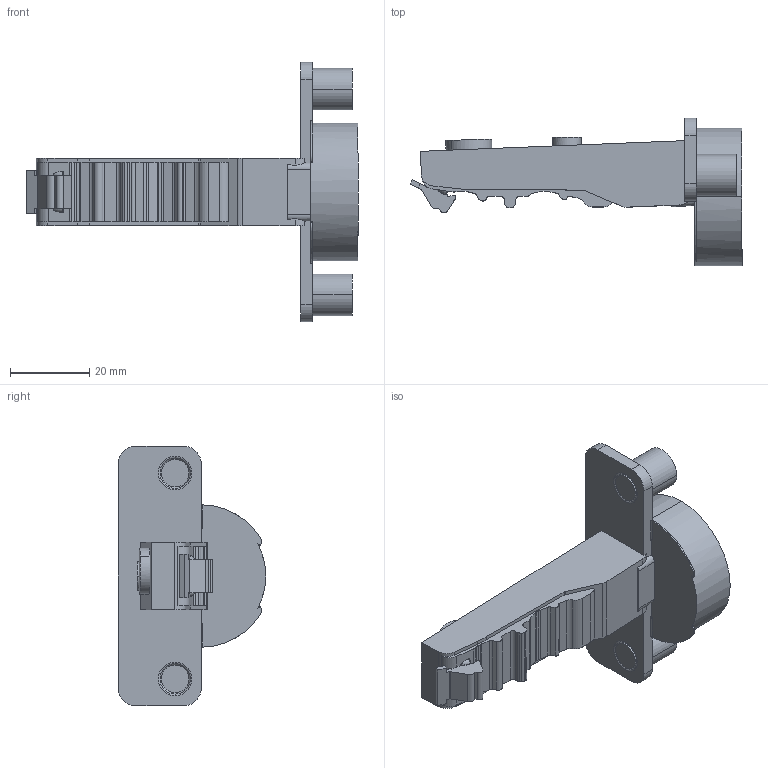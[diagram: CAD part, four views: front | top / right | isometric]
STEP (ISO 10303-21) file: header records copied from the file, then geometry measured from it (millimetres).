
FILE_DESCRIPTION (( 'STEP AP203' ), '1' );
FILE_NAME ('C82A677MFA-DTC 3D close.STEP', '2024-07-10T09:06:32', ( '微软用户' ), ( '微软中国' ), 'SwSTEP 2.0', 'SolidWorks 2021', '' );
FILE_SCHEMA (( 'CONFIG_CONTROL_DESIGN' ));
Length unit declared in the file: millimetre
Products named in the file (1): C82A677MFA-DTC 3D close
Bounding box: 83.89 x 37.28 x 65.56 mm (x, y, z)
Volume: 32668.5 mm3; surface area: 10577.9 mm2
Topology: 1 solids, 1 shells, 161 faces, 453 edges, 300 vertices
Faces by surface type: cylinder 70, plane 69, torus 10, bspline 8, cone 4
Entity records: 5547 total; most frequent: CARTESIAN_POINT 1274, ORIENTED_EDGE 906, DIRECTION 881, EDGE_CURVE 453, AXIS2_PLACEMENT_3D 318, VERTEX_POINT 300, VECTOR 245, LINE 245
